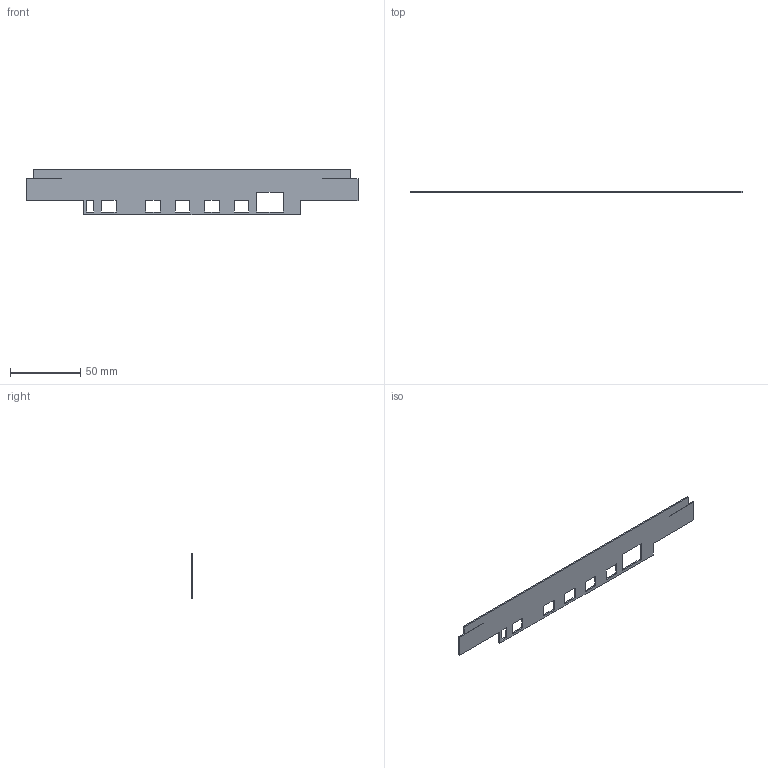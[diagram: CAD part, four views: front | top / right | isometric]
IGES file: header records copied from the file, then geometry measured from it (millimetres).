
Start section:  PTC IGES file: c:\works\pro\hrsivu2.igs
Global section: file name: c:\works\pro\hrsivu2.igs; native system: Pro/ENGINEER by Parametric Technology Corporation; preprocessor: 2001150; author: telimaa; organization: Unknown; date: 040905.143843; units: millimetre
Bounding box: 236.2 x 1 x 32.5 mm (x, y, z)
Surface area: 12947.9 mm2 (no closed solid volume)
Topology: 0 solids, 0 shells, 46 faces, 264 edges, 264 vertices
Faces by surface type: bspline 46
